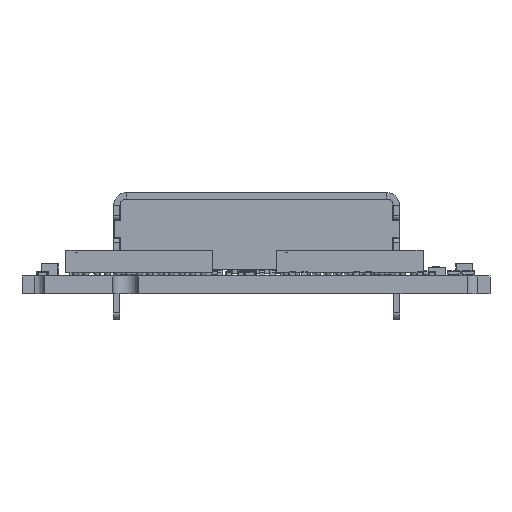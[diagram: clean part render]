
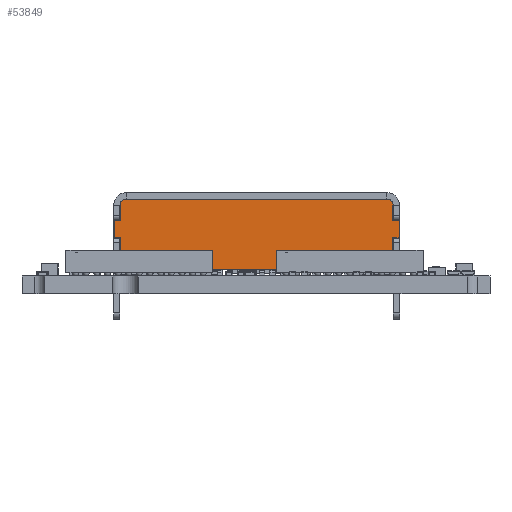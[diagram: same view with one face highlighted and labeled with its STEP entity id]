
A CAD part, front view. The second image highlights one B-rep face of the part: STEP entity #53849.
In plain terms, the highlighted planar face has unit normal (0, -1, 0) as drawn and (0, 0, -1) by its records, which use the part's own axes.
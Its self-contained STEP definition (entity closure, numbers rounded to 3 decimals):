
#34535 = VERTEX_POINT('',#34536);
#34536 = CARTESIAN_POINT('',(6.7,-0.4,-4.7));
#34542 = EDGE_CURVE('',#34543,#34535,#34545,.T.);
#34543 = VERTEX_POINT('',#34544);
#34544 = CARTESIAN_POINT('',(6.7,0.4,-4.7));
#34545 = LINE('',#34546,#34547);
#34546 = CARTESIAN_POINT('',(6.7,0.4,-4.7));
#34547 = VECTOR('',#34548,1.);
#34548 = DIRECTION('',(0.,-1.,0.));
#34573 = EDGE_CURVE('',#34574,#34543,#34576,.T.);
#34574 = VERTEX_POINT('',#34575);
#34575 = CARTESIAN_POINT('',(6.4,0.4,-4.7));
#34576 = LINE('',#34577,#34578);
#34577 = CARTESIAN_POINT('',(6.4,0.4,-4.7));
#34578 = VECTOR('',#34579,1.);
#34579 = DIRECTION('',(1.,0.,0.));
#34676 = VERTEX_POINT('',#34677);
#34677 = CARTESIAN_POINT('',(6.4,-0.4,-4.7));
#34683 = EDGE_CURVE('',#34535,#34676,#34684,.T.);
#34684 = LINE('',#34685,#34686);
#34685 = CARTESIAN_POINT('',(6.7,-0.4,-4.7));
#34686 = VECTOR('',#34687,1.);
#34687 = DIRECTION('',(-1.,0.,0.));
#34742 = VERTEX_POINT('',#34743);
#34743 = CARTESIAN_POINT('',(-6.4,0.4,-4.7));
#34749 = EDGE_CURVE('',#34742,#34750,#34752,.T.);
#34750 = VERTEX_POINT('',#34751);
#34751 = CARTESIAN_POINT('',(-6.7,0.4,-4.7));
#34752 = LINE('',#34753,#34754);
#34753 = CARTESIAN_POINT('',(-6.4,0.4,-4.7));
#34754 = VECTOR('',#34755,1.);
#34755 = DIRECTION('',(-1.,0.,0.));
#34802 = EDGE_CURVE('',#34750,#34803,#34805,.T.);
#34803 = VERTEX_POINT('',#34804);
#34804 = CARTESIAN_POINT('',(-6.7,-0.4,-4.7));
#34805 = LINE('',#34806,#34807);
#34806 = CARTESIAN_POINT('',(-6.7,0.4,-4.7));
#34807 = VECTOR('',#34808,1.);
#34808 = DIRECTION('',(0.,-1.,0.));
#34859 = EDGE_CURVE('',#34803,#34860,#34862,.T.);
#34860 = VERTEX_POINT('',#34861);
#34861 = CARTESIAN_POINT('',(-6.4,-0.4,-4.7));
#34862 = LINE('',#34863,#34864);
#34863 = CARTESIAN_POINT('',(-6.7,-0.4,-4.7));
#34864 = VECTOR('',#34865,1.);
#34865 = DIRECTION('',(1.,0.,0.));
#49715 = VERTEX_POINT('',#49716);
#49716 = CARTESIAN_POINT('',(6.4,-1.885,-4.7));
#49753 = VERTEX_POINT('',#49754);
#49754 = CARTESIAN_POINT('',(-6.4,-1.885,-4.7));
#49760 = EDGE_CURVE('',#49753,#49715,#49761,.T.);
#49761 = LINE('',#49762,#49763);
#49762 = CARTESIAN_POINT('',(-6.4,-1.885,-4.7));
#49763 = VECTOR('',#49764,1.);
#49764 = DIRECTION('',(1.,0.,0.));
#52239 = EDGE_CURVE('',#34742,#52240,#52242,.T.);
#52240 = VERTEX_POINT('',#52241);
#52241 = CARTESIAN_POINT('',(-6.4,1.235,-4.7));
#52242 = LINE('',#52243,#52244);
#52243 = CARTESIAN_POINT('',(-6.4,0.4,-4.7));
#52244 = VECTOR('',#52245,1.);
#52245 = DIRECTION('',(0.,1.,0.));
#52252 = EDGE_CURVE('',#49753,#34860,#52253,.T.);
#52253 = LINE('',#52254,#52255);
#52254 = CARTESIAN_POINT('',(-6.4,-1.885,-4.7));
#52255 = VECTOR('',#52256,1.);
#52256 = DIRECTION('',(0.,1.,0.));
#53813 = EDGE_CURVE('',#53814,#53816,#53818,.T.);
#53814 = VERTEX_POINT('',#53815);
#53815 = CARTESIAN_POINT('',(-6.219,1.4,-4.7));
#53816 = VERTEX_POINT('',#53817);
#53817 = CARTESIAN_POINT('',(6.219,1.4,-4.7));
#53818 = LINE('',#53819,#53820);
#53819 = CARTESIAN_POINT('',(-6.219,1.4,-4.7));
#53820 = VECTOR('',#53821,1.);
#53821 = DIRECTION('',(1.,0.,0.));
#53849 = ADVANCED_FACE('',(#53850),#53890,.F.);
#53850 = FACE_BOUND('',#53851,.T.);
#53851 = EDGE_LOOP('',(#53852,#53860,#53861,#53862,#53863,#53869,#53870,
    #53871,#53872,#53873,#53874,#53875,#53882,#53883));
#53852 = ORIENTED_EDGE('',*,*,#53853,.T.);
#53853 = EDGE_CURVE('',#53854,#34574,#53856,.T.);
#53854 = VERTEX_POINT('',#53855);
#53855 = CARTESIAN_POINT('',(6.4,1.235,-4.7));
#53856 = LINE('',#53857,#53858);
#53857 = CARTESIAN_POINT('',(6.4,1.235,-4.7));
#53858 = VECTOR('',#53859,1.);
#53859 = DIRECTION('',(0.,-1.,0.));
#53860 = ORIENTED_EDGE('',*,*,#34573,.T.);
#53861 = ORIENTED_EDGE('',*,*,#34542,.T.);
#53862 = ORIENTED_EDGE('',*,*,#34683,.T.);
#53863 = ORIENTED_EDGE('',*,*,#53864,.T.);
#53864 = EDGE_CURVE('',#34676,#49715,#53865,.T.);
#53865 = LINE('',#53866,#53867);
#53866 = CARTESIAN_POINT('',(6.4,-0.4,-4.7));
#53867 = VECTOR('',#53868,1.);
#53868 = DIRECTION('',(0.,-1.,0.));
#53869 = ORIENTED_EDGE('',*,*,#49760,.F.);
#53870 = ORIENTED_EDGE('',*,*,#52252,.T.);
#53871 = ORIENTED_EDGE('',*,*,#34859,.F.);
#53872 = ORIENTED_EDGE('',*,*,#34802,.F.);
#53873 = ORIENTED_EDGE('',*,*,#34749,.F.);
#53874 = ORIENTED_EDGE('',*,*,#52239,.T.);
#53875 = ORIENTED_EDGE('',*,*,#53876,.F.);
#53876 = EDGE_CURVE('',#53814,#52240,#53877,.T.);
#53877 = CIRCLE('',#53878,0.3);
#53878 = AXIS2_PLACEMENT_3D('',#53879,#53880,#53881);
#53879 = CARTESIAN_POINT('',(-6.125,1.115,-4.7));
#53880 = DIRECTION('',(0.,0.,1.));
#53881 = DIRECTION('',(-0.312,0.95,0.));
#53882 = ORIENTED_EDGE('',*,*,#53813,.T.);
#53883 = ORIENTED_EDGE('',*,*,#53884,.F.);
#53884 = EDGE_CURVE('',#53854,#53816,#53885,.T.);
#53885 = CIRCLE('',#53886,0.3);
#53886 = AXIS2_PLACEMENT_3D('',#53887,#53888,#53889);
#53887 = CARTESIAN_POINT('',(6.125,1.115,-4.7));
#53888 = DIRECTION('',(0.,0.,1.));
#53889 = DIRECTION('',(0.917,0.4,-0.));
#53890 = PLANE('',#53891);
#53891 = AXIS2_PLACEMENT_3D('',#53892,#53893,#53894);
#53892 = CARTESIAN_POINT('',(0.,-0.243,-4.7));
#53893 = DIRECTION('',(0.,0.,1.));
#53894 = DIRECTION('',(1.,0.,-0.));
